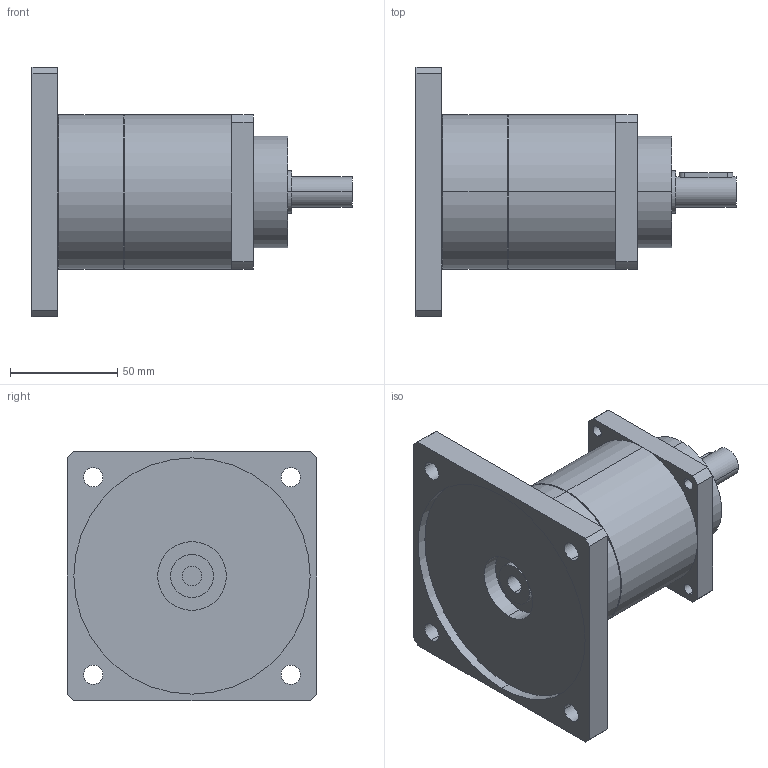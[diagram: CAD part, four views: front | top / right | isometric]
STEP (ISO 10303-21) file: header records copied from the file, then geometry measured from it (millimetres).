
FILE_DESCRIPTION(('CoCreate Modeling STEP Export'),'2;1');
FILE_NAME('GPT75_ig-9-12-16-20-25-28-35-40-50-70-100_14_B5T_9_P09.stp','2014-08-27T13:43:54',(''),(''),'CoCreate Modeling STEP processor for AP214 (Solid Model)','CoCreate Modeling 16.00C 25-Feb-2009 (C) Parametric Technology GmbH','');
FILE_SCHEMA(('AUTOMOTIVE_DESIGN { 1 0 10303 214 1 1 1 1 }'));
Length unit declared in the file: millimetre
Products named in the file (2): GPT75_ig-9-12-16-20-25-28-35-40-50-70-100_14_B5T_9_P09
Assembly tree (1 placements, depth 2):
  GPT75_ig-9-12-16-20-25-28-35-40-50-70-100_14_B5T_9_P09
    GPT75_ig-9-12-16-20-25-28-35-40-50-70-100_14_B5T_9_P09
Bounding box: 149 x 116 x 116 mm (x, y, z)
Volume: 527814.6 mm3; surface area: 65052.4 mm2
Topology: 1 solids, 1 shells, 77 faces, 194 edges, 129 vertices
Faces by surface type: cylinder 46, plane 27, cone 4
Entity records: 2484 total; most frequent: CARTESIAN_POINT 719, ORIENTED_EDGE 388, DIRECTION 320, EDGE_CURVE 194, VERTEX_POINT 129, AXIS2_PLACEMENT_3D 118, EDGE_LOOP 103, VECTOR 84
